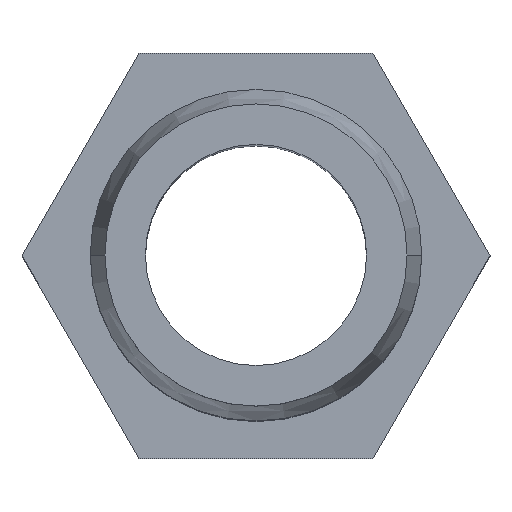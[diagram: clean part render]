
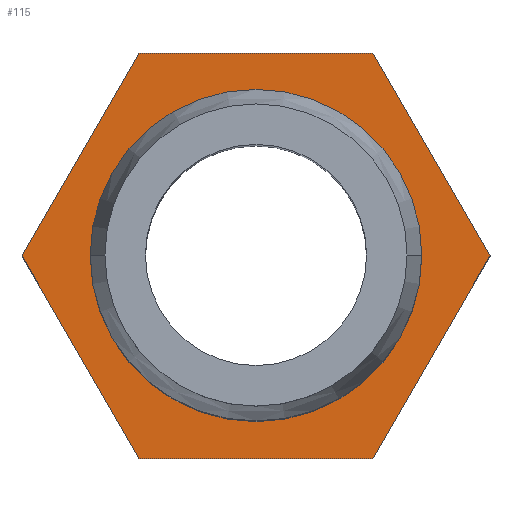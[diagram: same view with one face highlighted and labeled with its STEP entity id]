
A CAD part, top view. The second image highlights one B-rep face of the part: STEP entity #115.
In plain terms, the highlighted planar face has unit normal (0, 0, 1).
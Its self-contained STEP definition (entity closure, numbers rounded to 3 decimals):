
#115=ADVANCED_FACE('',(#229,#230),#231,.T.);
#229=FACE_BOUND('',#337,.T.);
#230=FACE_OUTER_BOUND('',#338,.T.);
#231=PLANE('',#339);
#337=EDGE_LOOP('',(#585,#586));
#338=EDGE_LOOP('',(#587,#588,#589,#590,#591,#592));
#339=AXIS2_PLACEMENT_3D('',#593,#594,#595);
#585=ORIENTED_EDGE('',*,*,#686,.T.);
#586=ORIENTED_EDGE('',*,*,#615,.T.);
#587=ORIENTED_EDGE('',*,*,#709,.T.);
#588=ORIENTED_EDGE('',*,*,#696,.T.);
#589=ORIENTED_EDGE('',*,*,#704,.T.);
#590=ORIENTED_EDGE('',*,*,#710,.T.);
#591=ORIENTED_EDGE('',*,*,#691,.T.);
#592=ORIENTED_EDGE('',*,*,#707,.T.);
#593=CARTESIAN_POINT('',(0.0,0.0,3.0));
#594=DIRECTION('',(0.0,0.0,1.0));
#595=DIRECTION('',(1.0,0.0,0.0));
#615=EDGE_CURVE('',#718,#715,#719,.T.);
#686=EDGE_CURVE('',#715,#718,#815,.T.);
#691=EDGE_CURVE('',#817,#822,#824,.T.);
#696=EDGE_CURVE('',#826,#831,#833,.T.);
#704=EDGE_CURVE('',#831,#842,#844,.T.);
#707=EDGE_CURVE('',#822,#846,#848,.T.);
#709=EDGE_CURVE('',#846,#826,#850,.T.);
#710=EDGE_CURVE('',#842,#817,#851,.T.);
#715=VERTEX_POINT('',#856);
#718=VERTEX_POINT('',#860);
#719=CIRCLE('',#861,4.5);
#815=CIRCLE('',#978,4.5);
#817=VERTEX_POINT('',#980);
#822=VERTEX_POINT('',#987);
#824=LINE('',#990,#991);
#826=VERTEX_POINT('',#993);
#831=VERTEX_POINT('',#1000);
#833=LINE('',#1003,#1004);
#842=VERTEX_POINT('',#1017);
#844=LINE('',#1020,#1021);
#846=VERTEX_POINT('',#1023);
#848=LINE('',#1026,#1027);
#850=LINE('',#1029,#1030);
#851=LINE('',#1031,#1032);
#856=CARTESIAN_POINT('',(4.5,0.0,3.0));
#860=CARTESIAN_POINT('',(-4.5,0.,3.0));
#861=AXIS2_PLACEMENT_3D('',#1037,#1038,#1039);
#978=AXIS2_PLACEMENT_3D('',#1139,#1140,#1141);
#980=CARTESIAN_POINT('',(-3.175,5.5,3.0));
#987=CARTESIAN_POINT('',(-6.351,0.,3.0));
#990=CARTESIAN_POINT('',(-4.763,2.75,3.0));
#991=VECTOR('',#1145,1.0);
#993=CARTESIAN_POINT('',(3.175,-5.5,3.0));
#1000=CARTESIAN_POINT('',(6.351,0.,3.0));
#1003=CARTESIAN_POINT('',(4.763,-2.75,3.0));
#1004=VECTOR('',#1149,1.0);
#1017=CARTESIAN_POINT('',(3.175,5.5,3.0));
#1020=CARTESIAN_POINT('',(4.763,2.75,3.0));
#1021=VECTOR('',#1155,1.0);
#1023=CARTESIAN_POINT('',(-3.175,-5.5,3.0));
#1026=CARTESIAN_POINT('',(-4.763,-2.75,3.0));
#1027=VECTOR('',#1157,1.0);
#1029=CARTESIAN_POINT('',(0.0,-5.5,3.0));
#1030=VECTOR('',#1158,1.0);
#1031=CARTESIAN_POINT('',(0.0,5.5,3.0));
#1032=VECTOR('',#1159,1.0);
#1037=CARTESIAN_POINT('',(0.0,0.0,3.0));
#1038=DIRECTION('',(0.0,0.0,-1.0));
#1039=DIRECTION('',(1.0,0.0,0.0));
#1139=CARTESIAN_POINT('',(0.0,0.0,3.0));
#1140=DIRECTION('',(0.0,0.0,-1.0));
#1141=DIRECTION('',(1.0,0.0,0.0));
#1145=DIRECTION('',(-0.5,-0.866,0.0));
#1149=DIRECTION('',(0.5,0.866,0.0));
#1155=DIRECTION('',(-0.5,0.866,0.0));
#1157=DIRECTION('',(0.5,-0.866,0.0));
#1158=DIRECTION('',(1.0,0.0,0.0));
#1159=DIRECTION('',(-1.0,0.0,0.0));
